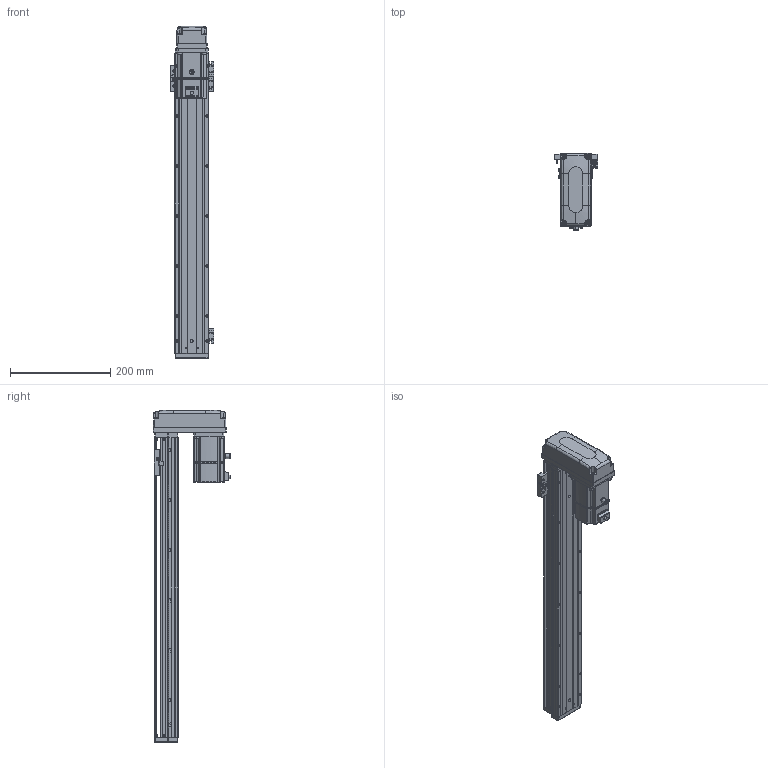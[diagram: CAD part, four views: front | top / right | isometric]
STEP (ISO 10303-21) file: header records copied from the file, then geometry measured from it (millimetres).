
FILE_DESCRIPTION (( 'STEP AP203' ), '1' );
FILE_NAME ('KTHA60-500-BM-M20-C4L.step', '2022-12-16T01:35:46', ( '微软用户' ), ( '微软中国' ), 'SwSTEP 2.0', 'SolidWorks 2020', '' );
FILE_SCHEMA (( 'CONFIG_CONTROL_DESIGN' ));
Length unit declared in the file: millimetre
Products named in the file (17): KTHA60-004; GBT 70.1-M4×16; _X2_4E0983F1_X0_200W_1; KTHA60-005; GBT77-2000M3-3; KTHA60-500-BM-M20-C4L; GB¨uT 70.2-M3¡Á5_M3¡Á6; GBT 70.1-M3℅6; GBT 70.3-M3℅6; CTHA60-016; EE_SX911P_R; KTHA60-002; CTHA60-017; BTH80-026; KTHA60-001_600; CTHA60-021; CTHA60-006-2_CTHA60-006-2
Assembly tree (51 placements, depth 2):
  KTHA60-500-BM-M20-C4L
    KTHA60-001_600
    KTHA60-004
    KTHA60-005
    GB¨uT 70.2-M3¡Á5_M3¡Á6  x6
    GBT 70.3-M3℅6  x4
    EE_SX911P_R  x3
    CTHA60-017  x3
    CTHA60-021  x2
    GBT 70.1-M4×16  x8
    GBT77-2000M3-3  x6
    GBT 70.1-M3℅6  x10
    CTHA60-016  x2
    KTHA60-002
    BTH80-026
    CTHA60-006-2_CTHA60-006-2
    _X2_4E0983F1_X0_200W_1
Bounding box: 87.72 x 155.2 x 664 mm (x, y, z)
Volume: 1476674 mm3; surface area: 390791 mm2
Topology: 54 solids, 54 shells, 2448 faces, 5829 edges, 3586 vertices
Faces by surface type: plane 1297, cylinder 650, cone 284, bspline 109, torus 92, sphere 16
Entity records: 45532 total; most frequent: CARTESIAN_POINT 10594, ORIENTED_EDGE 6706, DIRECTION 6698, EDGE_CURVE 3353, AXIS2_PLACEMENT_3D 2309, VERTEX_POINT 2095, LINE 2080, VECTOR 2080
